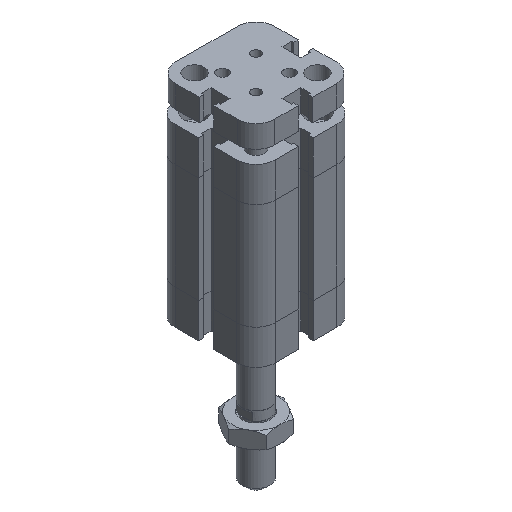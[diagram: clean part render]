
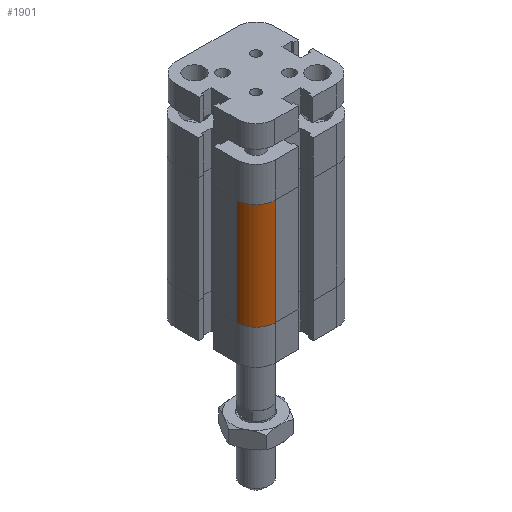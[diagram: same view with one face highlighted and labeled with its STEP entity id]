
A CAD part, isometric view. The second image highlights one B-rep face of the part: STEP entity #1901.
In plain terms, the highlighted cylindrical face has radius 7 mm (diameter 14 mm), a partial arc.
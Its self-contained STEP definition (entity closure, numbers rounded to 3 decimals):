
#1812=CARTESIAN_POINT('',(-18.,-11.0,12.5));
#1813=VERTEX_POINT('',#1812);
#1820=CARTESIAN_POINT('',(-18.,-11.0,50.5));
#1821=VERTEX_POINT('',#1820);
#1822=CARTESIAN_POINT('',(-18.,-11.0,12.5));
#1823=DIRECTION('',(0.0,0.0,1.0));
#1824=VECTOR('',#1823,38.);
#1825=LINE('',#1822,#1824);
#1826=EDGE_CURVE('',#1813,#1821,#1825,.T.);
#1869=CARTESIAN_POINT('',(-11.0,-11.0,0.0));
#1870=DIRECTION('',(0.0,0.0,1.0));
#1871=DIRECTION('',(1.0,0.0,0.0));
#1872=AXIS2_PLACEMENT_3D('',#1869,#1870,#1871);
#1873=CYLINDRICAL_SURFACE('',#1872,7.0);
#1874=CARTESIAN_POINT('',(-11.0,-18.,12.5));
#1875=VERTEX_POINT('',#1874);
#1876=CARTESIAN_POINT('',(-11.0,-11.0,12.5));
#1877=DIRECTION('',(0.0,0.0,1.0));
#1878=DIRECTION('',(1.0,0.0,0.0));
#1879=AXIS2_PLACEMENT_3D('',#1876,#1877,#1878);
#1880=CIRCLE('',#1879,7.0);
#1881=EDGE_CURVE('',#1813,#1875,#1880,.T.);
#1882=ORIENTED_EDGE('',*,*,#1881,.T.);
#1883=CARTESIAN_POINT('',(-11.0,-18.,50.5));
#1884=VERTEX_POINT('',#1883);
#1885=CARTESIAN_POINT('',(-11.0,-18.,12.5));
#1886=DIRECTION('',(0.0,0.0,1.0));
#1887=VECTOR('',#1886,38.);
#1888=LINE('',#1885,#1887);
#1889=EDGE_CURVE('',#1875,#1884,#1888,.T.);
#1890=ORIENTED_EDGE('',*,*,#1889,.T.);
#1891=CARTESIAN_POINT('',(-11.0,-11.0,50.5));
#1892=DIRECTION('',(0.0,0.0,1.0));
#1893=DIRECTION('',(1.0,0.0,0.0));
#1894=AXIS2_PLACEMENT_3D('',#1891,#1892,#1893);
#1895=CIRCLE('',#1894,7.0);
#1896=EDGE_CURVE('',#1821,#1884,#1895,.T.);
#1897=ORIENTED_EDGE('',*,*,#1896,.F.);
#1898=ORIENTED_EDGE('',*,*,#1826,.F.);
#1899=EDGE_LOOP('',(#1882,#1890,#1897,#1898));
#1900=FACE_OUTER_BOUND('',#1899,.T.);
#1901=ADVANCED_FACE('',(#1900),#1873,.T.);
